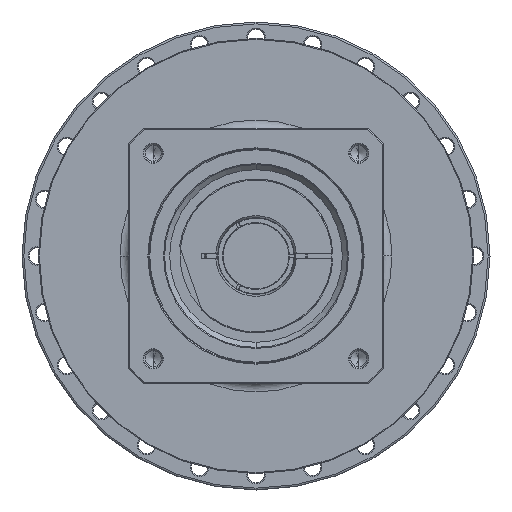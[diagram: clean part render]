
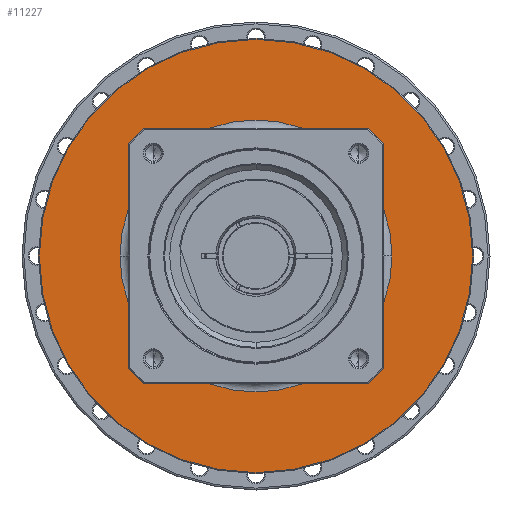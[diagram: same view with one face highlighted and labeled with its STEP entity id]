
A CAD part, left-side view. The second image highlights one B-rep face of the part: STEP entity #11227.
In plain terms, the highlighted planar face has unit normal (-1, 0, 0) as drawn and (1, 0, 0) by its records, which use the part's own axes.
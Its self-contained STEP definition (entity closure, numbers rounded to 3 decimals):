
#10706=CARTESIAN_POINT('',(-7.5,0.,0.));
#10707=DIRECTION('',(-1.,0.,0.));
#10708=DIRECTION('',(0.,-1.,0.));
#10709=AXIS2_PLACEMENT_3D('',#10706,#10707,#10708);
#10711=CARTESIAN_POINT('',(-7.5,0.,0.));
#10712=DIRECTION('',(-1.,0.,0.));
#10713=DIRECTION('',(0.,1.,0.));
#10714=AXIS2_PLACEMENT_3D('',#10711,#10712,#10713);
#10716=CARTESIAN_POINT('',(-7.5,0.,0.));
#10717=DIRECTION('',(-1.,0.,0.));
#10718=DIRECTION('',(0.,-1.,0.));
#10719=AXIS2_PLACEMENT_3D('',#10716,#10717,#10718);
#10721=CARTESIAN_POINT('',(-7.5,0.,0.));
#10722=DIRECTION('',(-1.,0.,0.));
#10723=DIRECTION('',(0.,1.,0.));
#10724=AXIS2_PLACEMENT_3D('',#10721,#10722,#10723);
#10790=CARTESIAN_POINT('',(-7.5,-115.5,0.));
#10791=CARTESIAN_POINT('',(-7.5,115.5,0.));
#10792=VERTEX_POINT('',#10790);
#10793=VERTEX_POINT('',#10791);
#10814=CARTESIAN_POINT('',(-7.5,-72.5,0.));
#10815=CARTESIAN_POINT('',(-7.5,72.5,0.));
#10816=VERTEX_POINT('',#10814);
#10817=VERTEX_POINT('',#10815);
#11212=CARTESIAN_POINT('',(-7.5,0.,0.));
#11213=DIRECTION('',(1.,0.,0.));
#11214=DIRECTION('',(0.,-1.,0.));
#11215=AXIS2_PLACEMENT_3D('',#11212,#11213,#11214);
#11216=PLANE('',#11215);
#11217=ORIENTED_EDGE('',*,*,#11153,.T.);
#11218=ORIENTED_EDGE('',*,*,#11168,.T.);
#11219=EDGE_LOOP('',(#11217,#11218));
#11220=FACE_OUTER_BOUND('',#11219,.F.);
#11222=ORIENTED_EDGE('',*,*,#11221,.F.);
#11224=ORIENTED_EDGE('',*,*,#11223,.F.);
#11225=EDGE_LOOP('',(#11222,#11224));
#11226=FACE_BOUND('',#11225,.F.);
#11227=ADVANCED_FACE('',(#11220,#11226),#11216,.T.);
#10710=CIRCLE('',#10709,72.5);
#10715=CIRCLE('',#10714,72.5);
#10720=CIRCLE('',#10719,115.5);
#10725=CIRCLE('',#10724,115.5);
#11153=EDGE_CURVE('',#10792,#10793,#10720,.T.);
#11168=EDGE_CURVE('',#10793,#10792,#10725,.T.);
#11221=EDGE_CURVE('',#10816,#10817,#10710,.T.);
#11223=EDGE_CURVE('',#10817,#10816,#10715,.T.);
